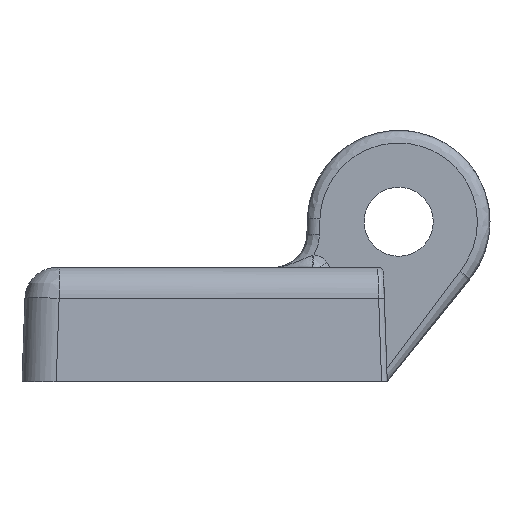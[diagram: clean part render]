
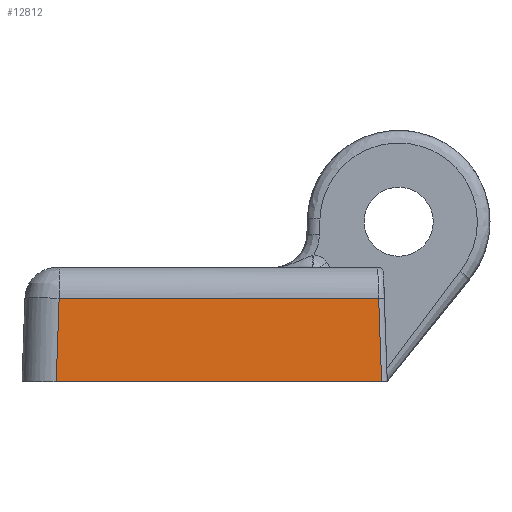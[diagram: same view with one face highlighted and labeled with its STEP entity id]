
A CAD part, front view. The second image highlights one B-rep face of the part: STEP entity #12812.
In plain terms, the highlighted planar face has unit normal (0, -0.999, 0.035).
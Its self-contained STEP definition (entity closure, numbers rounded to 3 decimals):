
#470 = CARTESIAN_POINT ( 'NONE',  ( -9.009, -5.822, 0. ) ) ;
#862 = EDGE_CURVE ( 'NONE', #11432, #7118, #5373, .T. ) ;
#3741 = CARTESIAN_POINT ( 'NONE',  ( -37.511, -5.822, 0. ) ) ;
#3784 = VERTEX_POINT ( 'NONE', #4170 ) ;
#4170 = CARTESIAN_POINT ( 'NONE',  ( -37.256, -5.568, 7.298 ) ) ;
#4801 = LINE ( 'NONE', #27438, #35791 ) ;
#5373 = LINE ( 'NONE', #13910, #33636 ) ;
#6820 = DIRECTION ( 'NONE',  ( -1., 0., 0. ) ) ;
#6927 = ORIENTED_EDGE ( 'NONE', *, *, #26752, .F. ) ;
#7118 = VERTEX_POINT ( 'NONE', #470 ) ;
#7766 = DIRECTION ( 'NONE',  ( 1., 0., 0. ) ) ;
#7939 = EDGE_CURVE ( 'NONE', #11432, #3784, #11507, .T. ) ;
#9409 = PLANE ( 'NONE',  #24902 ) ;
#9665 = DIRECTION ( 'NONE',  ( 0.035, 0.035, 0.999 ) ) ;
#10392 = LINE ( 'NONE', #32503, #24996 ) ;
#11432 = VERTEX_POINT ( 'NONE', #23579 ) ;
#11507 = LINE ( 'NONE', #33427, #35471 ) ;
#12738 = ORIENTED_EDGE ( 'NONE', *, *, #7939, .T. ) ;
#12812 = ADVANCED_FACE ( 'NONE', ( #34846 ), #9409, .T. ) ;
#13768 = ORIENTED_EDGE ( 'NONE', *, *, #20300, .T. ) ;
#13910 = CARTESIAN_POINT ( 'NONE',  ( -9.136, -5.695, 3.649 ) ) ;
#17053 = EDGE_LOOP ( 'NONE', ( #12738, #6927, #13768, #32496 ) ) ;
#20300 = EDGE_CURVE ( 'NONE', #35556, #7118, #4801, .T. ) ;
#22079 = DIRECTION ( 'NONE',  ( 0.035, -0.035, -0.999 ) ) ;
#23579 = CARTESIAN_POINT ( 'NONE',  ( -9.264, -5.568, 7.298 ) ) ;
#24902 = AXIS2_PLACEMENT_3D ( 'NONE', #35032, #26664, #6820 ) ;
#24996 = VECTOR ( 'NONE', #9665, 1000. ) ;
#26664 = DIRECTION ( 'NONE',  ( 0., -0.999, 0.035 ) ) ;
#26752 = EDGE_CURVE ( 'NONE', #35556, #3784, #10392, .T. ) ;
#27438 = CARTESIAN_POINT ( 'NONE',  ( -23.26, -5.822, 0. ) ) ;
#30649 = DIRECTION ( 'NONE',  ( -1., 0., 0. ) ) ;
#32496 = ORIENTED_EDGE ( 'NONE', *, *, #862, .F. ) ;
#32503 = CARTESIAN_POINT ( 'NONE',  ( -37.383, -5.695, 3.649 ) ) ;
#33427 = CARTESIAN_POINT ( 'NONE',  ( -23.26, -5.568, 7.298 ) ) ;
#33636 = VECTOR ( 'NONE', #22079, 1000. ) ;
#34846 = FACE_OUTER_BOUND ( 'NONE', #17053, .T. ) ;
#35032 = CARTESIAN_POINT ( 'NONE',  ( -23.26, -5.695, 3.649 ) ) ;
#35471 = VECTOR ( 'NONE', #30649, 1000. ) ;
#35556 = VERTEX_POINT ( 'NONE', #3741 ) ;
#35791 = VECTOR ( 'NONE', #7766, 1000. ) ;
